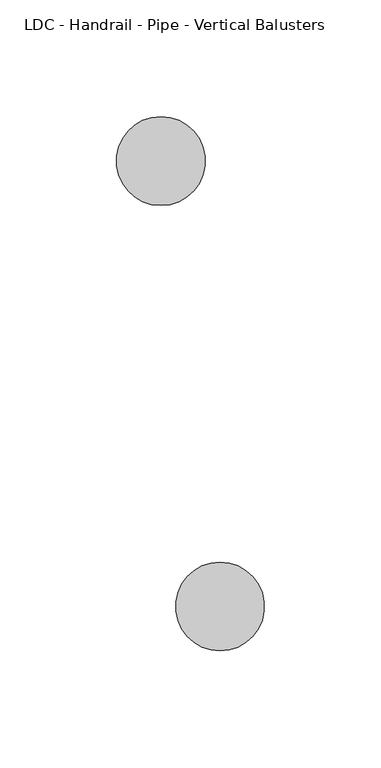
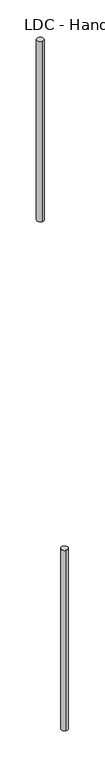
"""IFC4 building model written with IfcOpenShell, lengths in millimetres: railing geometry, LDC - Handrail - Pipe - Vertical Balusters."""

from ifc_helpers import new_model, si_unit, point, frame, frame_2d, origin, place, context, project, spatial, circle_curve, trimmed, segment, composite_curve, outline, extrude, source, transform, mapped, element, save


def ldc_handrail_pipe_vertical_balusters_81ec86d5(model_context):
    return source(origin(), model_context, "Body", "SweptSolid", [
        extrude(outline(composite_curve([segment(trimmed(circle_curve(frame_2d((-2934.7516552, 9516.427236)), 19.05), [point((-2934.7516552, 9535.477236))], [point((-2934.7516552, 9497.377236))], False, "CARTESIAN"), True, "CONTINUOUS"), segment(trimmed(circle_curve(frame_2d((-2934.7516552, 9516.427236)), 19.05), [point((-2934.7516552, 9497.377236))], [point((-2934.7516552, 9535.477236))], False, "CARTESIAN"), True, "CONTINUOUS")], self_intersect=False)), frame((0.0, 0.0, 3075.4545455), z_axis=(0.0, 0.0, 1.0), x_axis=(1.0, 0.0, 0.0)), (0.0, 0.0, 1.0), 1066.8),
        extrude(outline(composite_curve([segment(trimmed(circle_curve(frame_2d((-2909.3516552, 9325.927236)), 19.05), [point((-2909.3516552, 9306.877236))], [point((-2909.3516552, 9344.977236))], False, "CARTESIAN"), True, "CONTINUOUS"), segment(trimmed(circle_curve(frame_2d((-2909.3516552, 9325.927236)), 19.05), [point((-2909.3516552, 9344.977236))], [point((-2909.3516552, 9306.877236))], False, "CARTESIAN"), True, "CONTINUOUS")], self_intersect=False)), frame((0.0, 0.0, 170.0), z_axis=(0.0, 0.0, 1.0), x_axis=(1.0, 0.0, 0.0)), (0.0, 0.0, 1.0), 1066.8),
    ])


if __name__ == "__main__":
    model = new_model("IFC4")
    model_context = context("Model", 3, world=origin())
    ifc_project = project(units=[si_unit("LENGTHUNIT", "METRE", prefix="MILLI")], contexts=[model_context])
    site = spatial("IfcSite", under=ifc_project)
    building = spatial("IfcBuilding", under=site)
    placement = place(None, origin())
    ldc_handrail_pipe_vertical_balusters_shape = ldc_handrail_pipe_vertical_balusters_81ec86d5(model_context)
    element("IfcRailing", 1, ObjectType="LDC - Handrail - Pipe - Vertical Balusters", at=placement, inside=building, context=model_context, shape_type="MappedRepresentation", body=[
        mapped(ldc_handrail_pipe_vertical_balusters_shape, transform((0.0, 0.0, 0.0), x_axis=(1.0, 0.0, 0.0), y_axis=(0.0, 1.0, 0.0), z_axis=(0.0, 0.0, 1.0))),
    ])
    save(model, "model.ifc")
